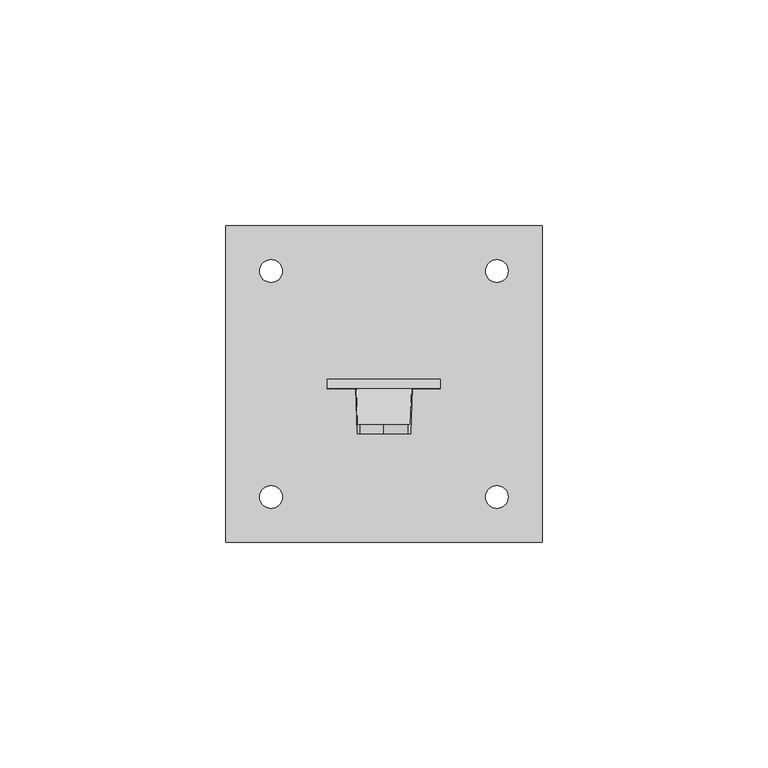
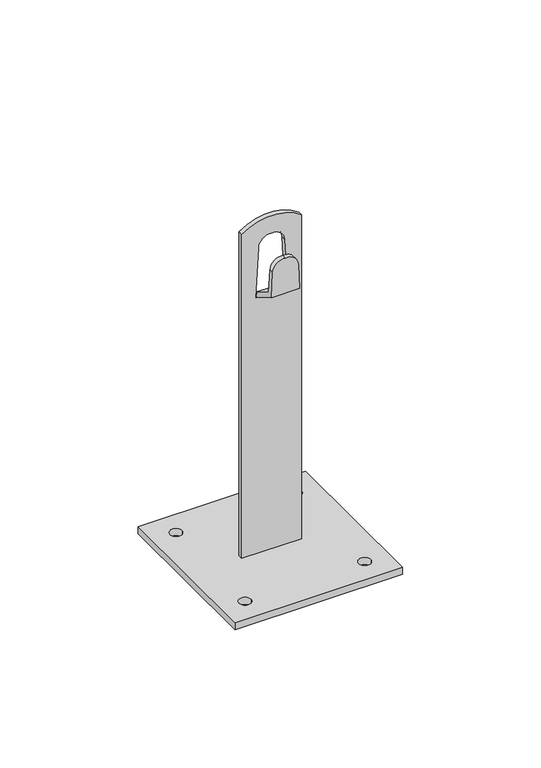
"""IFC4 building model written with IfcOpenShell, lengths in millimetres: proxy geometry, КНС_ДержательМеталлический_DKC : ND2105CU_Медь_150 мм."""

import ifcopenshell
import ifcopenshell.guid

model = None  # the IFC model being written
_history = None  # IfcOwnerHistory: only IFC2X3 demands one
_inside = {}  # id of a spatial element -> (the spatial element, [elements in it])
_under = {}  # id of a project, library or spatial element -> (it, [spatial elements below it])
_declared = {}  # id of a project -> (the project, [libraries it declares])
_typed = {}  # id of a type object -> (the type object, [elements of that type])
_made_of = {}  # id of a material, layer set ... -> (it, [elements and type objects made of it])


def new_model(schema):
    """Start an empty IFC model of exactly this schema.

    Asked for "IFC4X3", IfcOpenShell would pick the latest addendum, in which some entities
    have other attributes; the version numbers below select the first issue.
    IFC2X3 requires an IfcOwnerHistory on every rooted entity: one is made here for all.
    """
    global model, _history
    if schema == "IFC4X3":
        model = ifcopenshell.file(schema_version=(4, 3, 0, 0))
    else:
        model = ifcopenshell.file(schema=schema)
    _inside.clear()
    _under.clear()
    _declared.clear()
    _typed.clear()
    _made_of.clear()
    _history = None
    if model.schema == "IFC2X3":
        org = make("IfcOrganization", Name="unknown")
        user = make(
            "IfcPersonAndOrganization",
            ThePerson=make("IfcPerson", FamilyName="unknown"),
            TheOrganization=org,
        )
        app = make(
            "IfcApplication",
            ApplicationDeveloper=org,
            Version="unknown",
            ApplicationFullName="unknown",
            ApplicationIdentifier="unknown",
        )
        _history = make(
            "IfcOwnerHistory",
            OwningUser=user,
            OwningApplication=app,
            ChangeAction="ADDED",
            CreationDate=0,
        )
    return model


def make(cls, **values):
    """One entity of the class cls with the attributes given. An attribute that is None is left unset."""
    return model.create_entity(
        cls, **{name: value for name, value in values.items() if value is not None}
    )


def rooted(cls, **values):
    """An entity with a GlobalId (a new one), such as an element, a storey or a relation."""
    return make(cls, GlobalId=ifcopenshell.guid.new(), OwnerHistory=_history, **values)


def si_unit(unit_type, name, prefix=None):
    """IfcSIUnit, for example si_unit("LENGTHUNIT", "METRE", prefix="MILLI")."""
    return make("IfcSIUnit", UnitType=unit_type, Prefix=prefix, Name=name)


def assignment(units):
    """IfcUnitAssignment: the units of a project."""
    return None if units is None else make("IfcUnitAssignment", Units=units)


def point(xyz):
    """IfcCartesianPoint."""
    return None if xyz is None else make("IfcCartesianPoint", Coordinates=xyz)


def direction(xyz):
    """IfcDirection."""
    return None if xyz is None else make("IfcDirection", DirectionRatios=xyz)


def frame(location, z_axis=None, x_axis=None):
    """IfcAxis2Placement3D, a coordinate frame: its origin and axes. An axis left out is left unset."""
    return make(
        "IfcAxis2Placement3D",
        Location=point(location),
        Axis=direction(z_axis),
        RefDirection=direction(x_axis),
    )


def origin():
    """The frame at (0, 0, 0) with its axes left unset."""
    return frame((0.0, 0.0, 0.0))


def place(relative_to, where):
    """IfcLocalPlacement: puts the frame where relative to a parent placement (None: the world)."""
    return make(
        "IfcLocalPlacement", PlacementRelTo=relative_to, RelativePlacement=where
    )


def context(
    kind, dimensions, precision=None, world=None, true_north=None, identifier=None
):
    """IfcGeometricRepresentationContext, for example the 3D "Model" context."""
    return make(
        "IfcGeometricRepresentationContext",
        ContextIdentifier=identifier,
        ContextType=kind,
        CoordinateSpaceDimension=dimensions,
        Precision=precision,
        WorldCoordinateSystem=world,
        TrueNorth=true_north,
    )


def project(units=None, contexts=None):
    """IfcProject with its units and contexts."""
    return rooted(
        "IfcProject",
        Name="project",
        RepresentationContexts=contexts,
        UnitsInContext=assignment(units),
    )


def spatial(cls, under=None, at=None, **own):
    """A site, building, storey or space (cls), placed at a placement, below another one or the project."""
    s = rooted(cls, ObjectPlacement=at, **own)
    if under is not None:
        _under.setdefault(under.id(), (under, []))[1].append(s)
    return s


def polyline(points):
    """IfcPolyline through the points."""
    return make("IfcPolyline", Points=[point(p) for p in points])


def circle_curve(where, radius):
    """IfcCircle in the frame where."""
    return make("IfcCircle", Position=where, Radius=radius)


def shape(context_of_items, identifier, shape_type, items):
    """IfcShapeRepresentation: the items that make up one representation, for example the "Body"."""
    return make(
        "IfcShapeRepresentation",
        ContextOfItems=context_of_items,
        RepresentationIdentifier=identifier,
        RepresentationType=shape_type,
        Items=items,
    )


def source(mapping_origin, context_of_items, identifier, shape_type, items):
    """IfcRepresentationMap: a shape defined once, which mapped items show again and again."""
    return make(
        "IfcRepresentationMap",
        MappingOrigin=mapping_origin,
        MappedRepresentation=shape(context_of_items, identifier, shape_type, items),
    )


def transform(
    local_origin,
    x_axis=None,
    y_axis=None,
    z_axis=None,
    scale=None,
    scale2=None,
    scale3=None,
    uniform=True,
):
    """IfcCartesianTransformationOperator3D, or its non-uniform kind. x_axis, y_axis, z_axis: its Axis1, 2, 3."""
    if uniform:
        return make(
            "IfcCartesianTransformationOperator3D",
            Axis1=direction(x_axis),
            Axis2=direction(y_axis),
            LocalOrigin=point(local_origin),
            Scale=scale,
            Axis3=direction(z_axis),
        )
    return make(
        "IfcCartesianTransformationOperator3DnonUniform",
        Axis1=direction(x_axis),
        Axis2=direction(y_axis),
        LocalOrigin=point(local_origin),
        Scale=scale,
        Axis3=direction(z_axis),
        Scale2=scale2,
        Scale3=scale3,
    )


def mapped(mapping_source, mapping_target):
    """IfcMappedItem: shows the shape of a source again, moved by a transform."""
    return make(
        "IfcMappedItem", MappingSource=mapping_source, MappingTarget=mapping_target
    )


def made_of(thing, what):
    """Note that an element or type object is made of a material, layer set ...; save() writes the relation."""
    if what is not None:
        _made_of.setdefault(what.id(), (what, []))[1].append(thing)
    return thing


def element(
    cls,
    number,
    at=None,
    inside=None,
    cuts=None,
    type_object=None,
    material=None,
    context=None,
    identifier="Body",
    shape_type=None,
    held_by="IfcProductDefinitionShape",
    body=None,
    shapes=None,
    **own,
):
    """One element of the class cls, such as IfcWall. Its Tag is "e" and its number.

    at: its placement. inside: the storey or other place that contains it. cuts: it is an
    opening in that element (IfcRelVoidsElement). A single representation is given by context,
    identifier, shape_type and body (its items); several are given by shapes. held_by: the class
    of the entity that holds the representations. save() writes the other relations.
    """
    e = rooted(cls, Tag="e%d" % number, ObjectPlacement=at, **own)
    if body is not None:
        shapes = [shape(context, identifier, shape_type, body)]
    if shapes is not None:
        e.Representation = make(held_by, Representations=shapes)
    if inside is not None:
        _inside.setdefault(inside.id(), (inside, []))[1].append(e)
    if cuts is not None:
        rooted(
            "IfcRelVoidsElement", RelatingBuildingElement=cuts, RelatedOpeningElement=e
        )
    if type_object is not None:
        _typed.setdefault(type_object.id(), (type_object, []))[1].append(e)
    return made_of(e, material)


def aggregate(whole, parts):
    """IfcRelAggregates: a whole, such as a stair, and the parts it consists of."""
    return rooted("IfcRelAggregates", RelatingObject=whole, RelatedObjects=parts)


def save(model, path):
    """Write the relations noted so far, then the file.

    IfcRelAggregates (storeys below a building ...), IfcRelContainedInSpatialStructure (elements
    in a storey), IfcRelDefinesByType, IfcRelAssociatesMaterial and IfcRelDeclares: one each for
    every whole, place, type object, material and project.
    """
    for whole, parts in _under.values():
        aggregate(whole, parts)
    for where, things in _inside.values():
        rooted(
            "IfcRelContainedInSpatialStructure",
            RelatedElements=things,
            RelatingStructure=where,
        )
    for kind, things in _typed.values():
        rooted("IfcRelDefinesByType", RelatedObjects=things, RelatingType=kind)
    for what, things in _made_of.values():
        rooted("IfcRelAssociatesMaterial", RelatedObjects=things, RelatingMaterial=what)
    for by, libraries in _declared.values():
        rooted("IfcRelDeclares", RelatingContext=by, RelatedDefinitions=libraries)
    model.write(path)


def plane_surface(at):
    """IfcPlane: the flat surface through the origin of the frame at, square to its z axis."""
    return make("IfcPlane", Position=at)


def cylinder_surface(at, radius):
    """IfcCylindricalSurface: all points at the distance radius from the z axis of the frame at."""
    return make("IfcCylindricalSurface", Position=at, Radius=radius)


def revolved_surface(curve, axis_point, axis_direction):
    """IfcSurfaceOfRevolution: the curve turned about the line through axis_point along axis_direction."""
    return make(
        "IfcSurfaceOfRevolution",
        SweptCurve=make("IfcArbitraryOpenProfileDef", ProfileType="CURVE", Curve=curve),
        AxisPosition=make("IfcAxis1Placement", Location=point(axis_point), Axis=direction(axis_direction)),
    )


def advanced_brep(points, edges, surfaces, faces):
    """IfcAdvancedBrep: a solid bounded by faces that lie on surfaces and meet in shared edges.

    An edge is (start, end): straight between two places in points (the first is 0);
    or (start, end, curve); or (start, end, curve, False) where it runs against its curve.
    A face is (place in surfaces, loops), or (place, loops, False) where it looks against
    its surface's normal. A loop lists edges by number (the first is 1), with a minus sign
    where the edge is run from its end to its start. The first loop is the outer one.
    """
    corners = [point(p) for p in points]
    vertices = [make("IfcVertexPoint", VertexGeometry=c) for c in corners]
    made = []
    for start, end, *more in edges:
        made.append(
            make(
                "IfcEdgeCurve",
                EdgeStart=vertices[start],
                EdgeEnd=vertices[end],
                EdgeGeometry=more[0] if more else make("IfcPolyline", Points=[corners[start], corners[end]]),
                SameSense=more[1] if len(more) > 1 else True,
            )
        )
    hull = []
    for where, loops, *sense in faces:
        bounds = []
        for j, loop in enumerate(loops):
            ring = [make("IfcOrientedEdge", EdgeElement=made[abs(k) - 1], Orientation=k > 0) for k in loop]
            bounds.append(
                make(
                    "IfcFaceOuterBound" if j == 0 else "IfcFaceBound",
                    Bound=make("IfcEdgeLoop", EdgeList=ring),
                    Orientation=True,
                )
            )
        hull.append(make("IfcAdvancedFace", Bounds=bounds, FaceSurface=surfaces[where], SameSense=sense[0] if sense else True))
    return make("IfcAdvancedBrep", Outer=make("IfcClosedShell", CfsFaces=hull))


def security_devices_07dcc4bf(model_context):
    return source(origin(), model_context, "Body", "AdvancedBrep", [
        advanced_brep(
        [(-12.5, 1.0, 145.874537), (12.5, 1.0, 145.874537), (12.5, 1.0, 3.0), (-12.5, 1.0, 3.0), (-5.3645288, 1.0, 137.6660817), (-6.5, 1.0, 116.0), (6.5, 1.0, 116.0), (5.3645288, 1.0, 137.6660817), (0.0, 1.0, 142.1674559), (12.5, -1.0, 145.874537), (-12.5, -1.0, 145.874537), (-12.5, -1.0, 3.0), (12.5, -1.0, 3.0), (-5.3645288, -1.0, 137.6660817), (0.0, -1.0, 142.1674559), (5.3645288, -1.0, 137.6660817), (6.5, -1.0, 116.0), (-6.5, -1.0, 116.0), (35.0, -35.0, 0.0), (-35.0, -35.0, 0.0), (-35.0, 35.0, 0.0), (35.0, 35.0, 0.0), (-27.5022388, 25.0, 0.0), (-22.4977612, 25.0, 0.0), (22.4977612, 25.0, 0.0), (27.5022388, 25.0, 0.0), (-27.5022388, -25.0, 0.0), (-22.4977612, -25.0, 0.0), (22.4977612, -25.0, 0.0), (27.5022388, -25.0, 0.0), (35.0, -35.0, 3.0), (35.0, 35.0, 3.0), (-35.0, 35.0, 3.0), (-35.0, -35.0, 3.0), (-27.5022388, 25.0, 3.0), (-22.4977612, 25.0, 3.0), (22.4977612, 25.0, 3.0), (27.5022388, 25.0, 3.0), (-27.5022388, -25.0, 3.0), (-22.4977612, -25.0, 3.0), (22.4977612, -25.0, 3.0), (27.5022388, -25.0, 3.0)],
        [
            (0, 1, circle_curve(frame((0.0, 1.0, 129.0), z_axis=(0.0, 1.0, 0.0), x_axis=(1.0, 0.0, 0.0)), 21.0)),
            (1, 2),
            (2, 3),
            (3, 0),
            (4, 5),
            (5, 6),
            (6, 7),
            (7, 8, circle_curve(frame((0.5834648, 1.0, 137.4155168), z_axis=(0.0, -1.0, 0.0), x_axis=(1.0, 0.0, 0.0)), 4.7876253)),
            (8, 4, circle_curve(frame((-0.5834648, 1.0, 137.4155168), z_axis=(0.0, -1.0, 0.0), x_axis=(1.0, 0.0, 0.0)), 4.7876253)),
            (9, 10, circle_curve(frame((0.0, -1.0, 129.0), z_axis=(0.0, -1.0, 0.0), x_axis=(1.0, 0.0, 0.0)), 21.0)),
            (10, 11),
            (11, 12),
            (12, 9),
            (13, 14, circle_curve(frame((-0.5834648, -1.0, 137.4155168), z_axis=(0.0, 1.0, 0.0), x_axis=(1.0, 0.0, 0.0)), 4.7876253)),
            (14, 15, circle_curve(frame((0.5834648, -1.0, 137.4155168), z_axis=(0.0, 1.0, 0.0), x_axis=(1.0, 0.0, 0.0)), 4.7876253)),
            (15, 16),
            (16, 17),
            (17, 13),
            (10, 0),
            (3, 11),
            (1, 9),
            (12, 2),
            (18, 19),
            (19, 20),
            (20, 21),
            (21, 18),
            (22, 23, circle_curve(frame((-25.0, 25.0, 0.0), z_axis=(0.0, 0.0, 1.0), x_axis=(1.0, 0.0, 0.0)), 2.5022388)),
            (23, 22, circle_curve(frame((-25.0, 25.0, 0.0), z_axis=(0.0, 0.0, 1.0), x_axis=(1.0, 0.0, 0.0)), 2.5022388)),
            (24, 25, circle_curve(frame((25.0, 25.0, 0.0), z_axis=(0.0, 0.0, 1.0), x_axis=(1.0, 0.0, 0.0)), 2.5022388)),
            (25, 24, circle_curve(frame((25.0, 25.0, 0.0), z_axis=(0.0, 0.0, 1.0), x_axis=(1.0, 0.0, 0.0)), 2.5022388)),
            (26, 27, circle_curve(frame((-25.0, -25.0, 0.0), z_axis=(0.0, 0.0, 1.0), x_axis=(1.0, 0.0, 0.0)), 2.5022388)),
            (27, 26, circle_curve(frame((-25.0, -25.0, 0.0), z_axis=(0.0, 0.0, 1.0), x_axis=(1.0, 0.0, 0.0)), 2.5022388)),
            (28, 29, circle_curve(frame((25.0, -25.0, 0.0), z_axis=(0.0, 0.0, 1.0), x_axis=(1.0, 0.0, 0.0)), 2.5022388)),
            (29, 28, circle_curve(frame((25.0, -25.0, 0.0), z_axis=(0.0, 0.0, 1.0), x_axis=(1.0, 0.0, 0.0)), 2.5022388)),
            (8, 14),
            (13, 4),
            (7, 15),
            (6, 16),
            (5, 17),
            (30, 31),
            (31, 32),
            (32, 33),
            (33, 30),
            (34, 35, circle_curve(frame((-25.0, 25.0, 3.0), z_axis=(0.0, 0.0, -1.0), x_axis=(1.0, 0.0, 0.0)), 2.5022388)),
            (35, 34, circle_curve(frame((-25.0, 25.0, 3.0), z_axis=(0.0, 0.0, -1.0), x_axis=(1.0, 0.0, 0.0)), 2.5022388)),
            (36, 37, circle_curve(frame((25.0, 25.0, 3.0), z_axis=(0.0, 0.0, -1.0), x_axis=(1.0, 0.0, 0.0)), 2.5022388)),
            (37, 36, circle_curve(frame((25.0, 25.0, 3.0), z_axis=(0.0, 0.0, -1.0), x_axis=(1.0, 0.0, 0.0)), 2.5022388)),
            (38, 39, circle_curve(frame((-25.0, -25.0, 3.0), z_axis=(0.0, 0.0, -1.0), x_axis=(1.0, 0.0, 0.0)), 2.5022388)),
            (39, 38, circle_curve(frame((-25.0, -25.0, 3.0), z_axis=(0.0, 0.0, -1.0), x_axis=(1.0, 0.0, 0.0)), 2.5022388)),
            (40, 41, circle_curve(frame((25.0, -25.0, 3.0), z_axis=(0.0, 0.0, -1.0), x_axis=(1.0, 0.0, 0.0)), 2.5022388)),
            (41, 40, circle_curve(frame((25.0, -25.0, 3.0), z_axis=(0.0, 0.0, -1.0), x_axis=(1.0, 0.0, 0.0)), 2.5022388)),
            (30, 18),
            (21, 31),
            (20, 32),
            (19, 33),
            (34, 22),
            (23, 35),
            (36, 24),
            (25, 37),
            (38, 26),
            (27, 39),
            (40, 28),
            (29, 41),
        ],
        [
            plane_surface(frame((-12.5, 1.0, 0.0), z_axis=(0.0, 1.0, 0.0), x_axis=(0.0, 0.0, 1.0))),
            plane_surface(frame((-12.5, -1.0, 0.0), z_axis=(0.0, -1.0, 0.0), x_axis=(0.0, 0.0, -1.0))),
            plane_surface(frame((-12.5, -1.0, 100.0), z_axis=(-1.0, 0.0, 0.0), x_axis=(0.0, 1.0, 0.0))),
            plane_surface(frame((12.5, -1.0, 0.0), z_axis=(1.0, 0.0, 0.0), x_axis=(0.0, 1.0, 0.0))),
            plane_surface(frame((-12.5, -1.0, 0.0), z_axis=(0.0, 0.0, -1.0), x_axis=(0.0, 1.0, 0.0))),
            cylinder_surface(frame((0.0, 1.0, 129.0), z_axis=(0.0, -1.0, 0.0), x_axis=(1.0, 0.0, 0.0)), 21.0),
            revolved_surface(polyline([(4.2041605, 1.0, 137.4155168), (4.2041605, -1.0, 137.4155168)]), (-0.5834648, 0.0, 137.4155168), (0.0, 1.0, 0.0)),
            revolved_surface(polyline([(5.3710901, 1.0, 137.4155168), (5.3710901, -1.0, 137.4155168)]), (0.5834648, 0.0, 137.4155168), (0.0, 1.0, 0.0)),
            plane_surface(frame((5.3645288, -1.0, 137.6660817), z_axis=(-0.9986295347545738, 0.0, -0.05233595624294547), x_axis=(0.0, 1.0, 0.0))),
            plane_surface(frame((6.5, -1.0, 116.0), z_axis=(0.0, 0.0, 1.0), x_axis=(0.0, 1.0, 0.0))),
            plane_surface(frame((-6.5, -1.0, 116.0), z_axis=(0.9986295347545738, 0.0, -0.052335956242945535), x_axis=(0.0, 1.0, 0.0))),
            plane_surface(frame((35.0, -36.5700678, 3.0), z_axis=(0.0, 0.0, 1.0), x_axis=(0.0, 1.0, 0.0))),
            plane_surface(frame((35.0, -35.0, 3.0), z_axis=(1.0, 0.0, 0.0), x_axis=(0.0, 0.0, -1.0))),
            plane_surface(frame((35.0, 35.0, 3.0), z_axis=(0.0, 1.0, 0.0), x_axis=(0.0, 0.0, -1.0))),
            plane_surface(frame((-35.0, 35.0, 3.0), z_axis=(-1.0, 0.0, 0.0), x_axis=(0.0, 0.0, -1.0))),
            plane_surface(frame((-35.0, -35.0, 3.0), z_axis=(0.0, -1.0, 0.0), x_axis=(0.0, 0.0, -1.0))),
            revolved_surface(polyline([(-22.4977612, 25.0, 0.0), (-22.4977612, 25.0, 3.0)]), (-25.0, 25.0, 0.0), (0.0, 0.0, -1.0)),
            revolved_surface(polyline([(27.5022388, 25.0, 0.0), (27.5022388, 25.0, 3.0)]), (25.0, 25.0, 0.0), (0.0, 0.0, -1.0)),
            revolved_surface(polyline([(-22.4977612, -25.0, 0.0), (-22.4977612, -25.0, 3.0)]), (-25.0, -25.0, 0.0), (0.0, 0.0, -1.0)),
            revolved_surface(polyline([(27.5022388, -25.0, 0.0), (27.5022388, -25.0, 3.0)]), (25.0, -25.0, 0.0), (0.0, 0.0, -1.0)),
        ],
        [
            (0, [[1, 2, 3, 4], [5, 6, 7, 8, 9]]),
            (1, [[10, 11, 12, 13], [14, 15, 16, 17, 18]]),
            (2, [[19, -4, 20, -11]]),
            (3, [[21, -13, 22, -2]]),
            (4, [[23, 24, 25, 26], [27, 28], [29, 30], [31, 32], [33, 34]]),
            (5, [[-1, -19, -10, -21]]),
            (6, [[-9, 35, -14, 36]]),
            (7, [[-8, 37, -15, -35]]),
            (8, [[-7, 38, -16, -37]]),
            (9, [[-6, 39, -17, -38]]),
            (10, [[-5, -36, -18, -39]]),
            (11, [[40, 41, 42, 43], [-3, -22, -12, -20], [44, 45], [46, 47], [48, 49], [50, 51]]),
            (12, [[-40, 52, -26, 53]]),
            (13, [[-41, -53, -25, 54]]),
            (14, [[-42, -54, -24, 55]]),
            (15, [[-43, -55, -23, -52]]),
            (16, [[-44, 56, -28, 57]]),
            (16, [[-45, -57, -27, -56]]),
            (17, [[-46, 58, -30, 59]]),
            (17, [[-47, -59, -29, -58]]),
            (18, [[-48, 60, -32, 61]]),
            (18, [[-49, -61, -31, -60]]),
            (19, [[-50, 62, -34, 63]]),
            (19, [[-51, -63, -33, -62]]),
        ],
    ),
        advanced_brep(
        [(5.3645288, -11.0, 132.6660817), (0.0, -11.0, 137.1674559), (-5.3645288, -11.0, 132.6660817), (-5.9353846, -11.0, 121.7735027), (5.9353846, -11.0, 121.7735027), (6.2379611, -1.0, 116.0), (-6.2379611, -1.0, 116.0), (-6.1169305, -1.0, 118.3094011), (6.1169305, -1.0, 118.3094011), (-5.3645288, -9.0, 132.6660817), (-5.8748694, -9.0, 122.9282032), (5.8748694, -9.0, 122.9282032), (5.3645288, -9.0, 132.6660817), (0.0, -9.0, 137.1674559)],
        [
            (0, 1, circle_curve(frame((0.5834648, -11.0, 132.4155168), z_axis=(0.0, -1.0, 0.0), x_axis=(1.0, 0.0, 0.0)), 4.7876253)),
            (1, 2, circle_curve(frame((-0.5834648, -11.0, 132.4155168), z_axis=(0.0, -1.0, 0.0), x_axis=(1.0, 0.0, 0.0)), 4.7876253)),
            (2, 3),
            (3, 4),
            (4, 0),
            (5, 6),
            (6, 7),
            (7, 8),
            (8, 5),
            (2, 9),
            (9, 10),
            (10, 7),
            (6, 3),
            (4, 5),
            (8, 11),
            (11, 12),
            (12, 0),
            (12, 13, circle_curve(frame((0.5834648, -9.0, 132.4155168), z_axis=(0.0, -1.0, 0.0), x_axis=(1.0, 0.0, 0.0)), 4.7876253)),
            (13, 1),
            (13, 9, circle_curve(frame((-0.5834648, -9.0, 132.4155168), z_axis=(0.0, -1.0, 0.0), x_axis=(1.0, 0.0, 0.0)), 4.7876253)),
            (10, 11),
        ],
        [
            plane_surface(frame((-6.2414541, -11.0, 115.9333499), z_axis=(0.0, -1.0, 0.0), x_axis=(-0.05233595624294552, 0.0, -0.9986295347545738))),
            plane_surface(frame((-6.2414541, -1.0, 115.9333499), z_axis=(0.0, 1.0, 0.0), x_axis=(0.05233595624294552, 0.0, 0.9986295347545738))),
            plane_surface(frame((-5.3645288, -11.0, 132.6660817), z_axis=(-0.9986295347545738, 0.0, 0.05233595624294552), x_axis=(0.0, 1.0, 0.0))),
            plane_surface(frame((6.2379611, -11.0, 116.0), z_axis=(0.9986295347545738, 0.0, 0.05233595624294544), x_axis=(0.0, 1.0, 0.0))),
            cylinder_surface(frame((0.5834648, -1.0, 132.4155168), z_axis=(0.0, -1.0, 0.0), x_axis=(1.0, 0.0, 0.0)), 4.7876253),
            cylinder_surface(frame((-0.5834648, -1.0, 132.4155168), z_axis=(0.0, -1.0, 0.0), x_axis=(1.0, 0.0, 0.0)), 4.7876253),
            plane_surface(frame((12.5, -1.0, 116.0), z_axis=(0.0, -0.5000000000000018, -0.8660254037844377), x_axis=(-1.0, 0.0, 0.0))),
            plane_surface(frame((12.5, -9.0, 122.9282032), z_axis=(0.0, 0.500000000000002, 0.8660254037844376), x_axis=(-1.0, 0.0, 0.0))),
            plane_surface(frame((12.5, -9.0, 147.9372685), z_axis=(0.0, 1.0, 0.0), x_axis=(-1.0, 0.0, 0.0))),
        ],
        [
            (0, [[1, 2, 3, 4, 5]]),
            (1, [[6, 7, 8, 9]]),
            (2, [[-3, 10, 11, 12, -7, 13]]),
            (3, [[-5, 14, -9, 15, 16, 17]]),
            (4, [[-1, -17, 18, 19]]),
            (5, [[-2, -19, 20, -10]]),
            (6, [[-4, -13, -6, -14]]),
            (7, [[21, -15, -8, -12]]),
            (8, [[-21, -11, -20, -18, -16]]),
        ],
    ),
    ])


if __name__ == "__main__":
    model = new_model("IFC4")
    model_context = context("Model", 3, world=origin())
    ifc_project = project(units=[si_unit("LENGTHUNIT", "METRE", prefix="MILLI")], contexts=[model_context])
    site = spatial("IfcSite", under=ifc_project)
    building = spatial("IfcBuilding", under=site)
    placement = place(None, origin())
    security_devices_shape = security_devices_07dcc4bf(model_context)
    element("IfcBuildingElementProxy", 1, Name="КНС_ДержательМеталлический_DKC : ND2105CU_Медь_150 мм", ObjectType="КНС_ДержательМеталлический_DKC : ND2105CU_Медь_150 мм", at=placement, inside=building, context=model_context, shape_type="MappedRepresentation", body=[
        mapped(security_devices_shape, transform((0.0, 0.0, 0.0), x_axis=(1.0, 0.0, 0.0), y_axis=(0.0, 1.0, 0.0), z_axis=(0.0, 0.0, 1.0))),
    ])
    save(model, "model.ifc")
